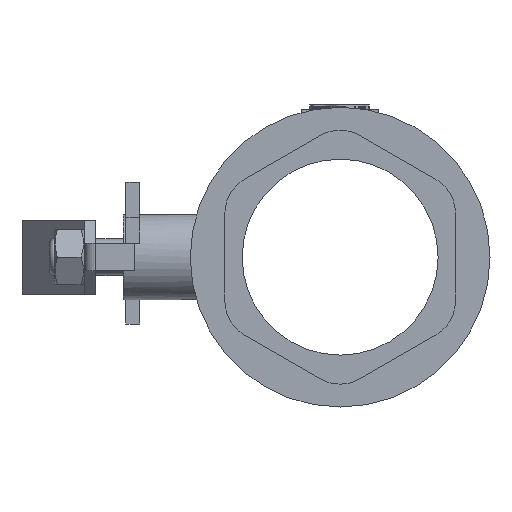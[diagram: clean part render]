
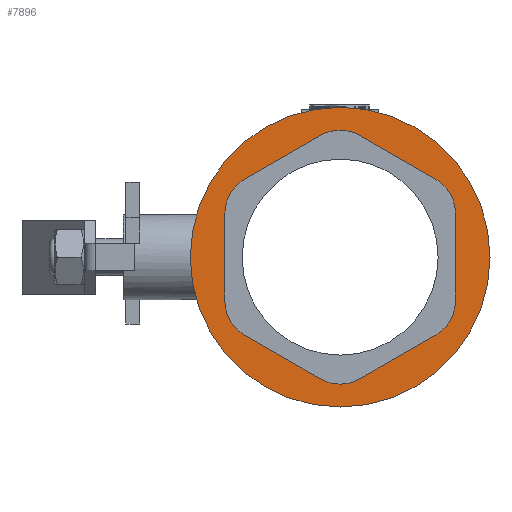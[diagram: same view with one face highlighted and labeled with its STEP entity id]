
A CAD part, left-side view. The second image highlights one B-rep face of the part: STEP entity #7896.
In plain terms, the highlighted planar face has unit normal (-1, 0, 0).
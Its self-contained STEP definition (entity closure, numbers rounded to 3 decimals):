
#7896=ADVANCED_FACE('',(#14599,#14601),#14603,.T.);
#14599=FACE_BOUND('',#14600,.T.);
#14600=EDGE_LOOP('',(#20150,#20151));
#14601=FACE_BOUND('',#14602,.T.);
#14602=EDGE_LOOP('',(#20152,#20153,#20154,#20155,#20156,#20157,#20158,#20159,#20160,
#20161,#20162,#20163));
#14603=PLANE('',#14604);
#14604=AXIS2_PLACEMENT_3D('',#14605,#14606,#14607);
#14605=CARTESIAN_POINT('',(10720.205,3271.117,0.));
#14606=DIRECTION('',(-1.,0.,0.));
#14607=DIRECTION('',(0.,0.,1.));
#20150=ORIENTED_EDGE('',*,*,#23042,.F.);
#20151=ORIENTED_EDGE('',*,*,#23043,.F.);
#20152=ORIENTED_EDGE('',*,*,#23044,.F.);
#20153=ORIENTED_EDGE('',*,*,#23045,.F.);
#20154=ORIENTED_EDGE('',*,*,#23046,.F.);
#20155=ORIENTED_EDGE('',*,*,#23047,.F.);
#20156=ORIENTED_EDGE('',*,*,#23048,.F.);
#20157=ORIENTED_EDGE('',*,*,#23049,.F.);
#20158=ORIENTED_EDGE('',*,*,#23050,.F.);
#20159=ORIENTED_EDGE('',*,*,#23051,.F.);
#20160=ORIENTED_EDGE('',*,*,#23052,.F.);
#20161=ORIENTED_EDGE('',*,*,#23053,.F.);
#20162=ORIENTED_EDGE('',*,*,#23054,.F.);
#20163=ORIENTED_EDGE('',*,*,#23055,.F.);
#23042=EDGE_CURVE('',#27417,#27418,#27419,.T.);
#23043=EDGE_CURVE('',#27418,#27417,#27420,.T.);
#23044=EDGE_CURVE('',#27421,#27422,#27423,.T.);
#23045=EDGE_CURVE('',#27424,#27421,#27425,.T.);
#23046=EDGE_CURVE('',#27426,#27424,#27427,.T.);
#23047=EDGE_CURVE('',#27428,#27426,#27429,.T.);
#23048=EDGE_CURVE('',#27430,#27428,#27431,.T.);
#23049=EDGE_CURVE('',#27432,#27430,#27433,.T.);
#23050=EDGE_CURVE('',#27434,#27432,#27435,.T.);
#23051=EDGE_CURVE('',#27436,#27434,#27437,.T.);
#23052=EDGE_CURVE('',#27438,#27436,#27439,.T.);
#23053=EDGE_CURVE('',#27440,#27438,#27441,.T.);
#23054=EDGE_CURVE('',#27442,#27440,#27443,.T.);
#23055=EDGE_CURVE('',#27422,#27442,#27444,.T.);
#27417=VERTEX_POINT('',#37223);
#27418=VERTEX_POINT('',#37224);
#27419=CIRCLE('',#37225,65.);
#27420=CIRCLE('',#37229,65.);
#27421=VERTEX_POINT('',#37233);
#27422=VERTEX_POINT('',#37234);
#27423=CIRCLE('',#37235,17.);
#27424=VERTEX_POINT('',#37239);
#27425=LINE('',#37240,#37241);
#27426=VERTEX_POINT('',#37243);
#27427=CIRCLE('',#37244,17.);
#27428=VERTEX_POINT('',#37248);
#27429=LINE('',#37249,#37250);
#27430=VERTEX_POINT('',#37252);
#27431=CIRCLE('',#37253,17.);
#27432=VERTEX_POINT('',#37257);
#27433=LINE('',#37258,#37259);
#27434=VERTEX_POINT('',#37261);
#27435=CIRCLE('',#37262,17.);
#27436=VERTEX_POINT('',#37266);
#27437=LINE('',#37267,#37268);
#27438=VERTEX_POINT('',#37270);
#27439=CIRCLE('',#37271,17.);
#27440=VERTEX_POINT('',#37275);
#27441=LINE('',#37276,#37277);
#27442=VERTEX_POINT('',#37279);
#27443=CIRCLE('',#37280,17.);
#27444=LINE('',#37284,#37285);
#37223=CARTESIAN_POINT('',(10720.205,3141.117,0.));
#37224=CARTESIAN_POINT('',(10720.205,3271.117,0.));
#37225=AXIS2_PLACEMENT_3D('',#37226,#37227,#37228);
#37226=CARTESIAN_POINT('',(10720.205,3206.117,0.));
#37227=DIRECTION('',(1.,0.,0.));
#37228=DIRECTION('',(0.,-1.,0.));
#37229=AXIS2_PLACEMENT_3D('',#37230,#37231,#37232);
#37230=CARTESIAN_POINT('',(10720.205,3206.117,0.));
#37231=DIRECTION('',(1.,0.,0.));
#37232=DIRECTION('',(0.,1.,0.));
#37233=CARTESIAN_POINT('',(10720.205,3156.117,19.053));
#37234=CARTESIAN_POINT('',(10720.205,3164.617,33.775));
#37235=AXIS2_PLACEMENT_3D('',#37236,#37237,#37238);
#37236=CARTESIAN_POINT('',(10720.205,3173.117,19.053));
#37237=DIRECTION('',(-1.,0.,0.));
#37238=DIRECTION('',(0.,-1.,0.));
#37239=CARTESIAN_POINT('',(10720.205,3156.117,-19.053));
#37240=CARTESIAN_POINT('',(10720.205,3156.117,-19.053));
#37241=VECTOR('',#37242,1.);
#37242=DIRECTION('',(0.,0.,1.));
#37243=CARTESIAN_POINT('',(10720.205,3164.617,-33.775));
#37244=AXIS2_PLACEMENT_3D('',#37245,#37246,#37247);
#37245=CARTESIAN_POINT('',(10720.205,3173.117,-19.053));
#37246=DIRECTION('',(-1.,0.,0.));
#37247=DIRECTION('',(0.,-0.5,-0.866));
#37248=CARTESIAN_POINT('',(10720.205,3197.617,-52.828));
#37249=CARTESIAN_POINT('',(10720.205,3197.617,-52.828));
#37250=VECTOR('',#37251,1.);
#37251=DIRECTION('',(0.,-0.866,0.5));
#37252=CARTESIAN_POINT('',(10720.205,3214.617,-52.828));
#37253=AXIS2_PLACEMENT_3D('',#37254,#37255,#37256);
#37254=CARTESIAN_POINT('',(10720.205,3206.117,-38.105));
#37255=DIRECTION('',(-1.,0.,0.));
#37256=DIRECTION('',(0.,0.5,-0.866));
#37257=CARTESIAN_POINT('',(10720.205,3247.617,-33.775));
#37258=CARTESIAN_POINT('',(10720.205,3247.617,-33.775));
#37259=VECTOR('',#37260,1.);
#37260=DIRECTION('',(0.,-0.866,-0.5));
#37261=CARTESIAN_POINT('',(10720.205,3256.117,-19.053));
#37262=AXIS2_PLACEMENT_3D('',#37263,#37264,#37265);
#37263=CARTESIAN_POINT('',(10720.205,3239.117,-19.053));
#37264=DIRECTION('',(-1.,0.,0.));
#37265=DIRECTION('',(0.,1.,0.));
#37266=CARTESIAN_POINT('',(10720.205,3256.117,19.053));
#37267=CARTESIAN_POINT('',(10720.205,3256.117,19.053));
#37268=VECTOR('',#37269,1.);
#37269=DIRECTION('',(0.,0.,-1.));
#37270=CARTESIAN_POINT('',(10720.205,3247.617,33.775));
#37271=AXIS2_PLACEMENT_3D('',#37272,#37273,#37274);
#37272=CARTESIAN_POINT('',(10720.205,3239.117,19.053));
#37273=DIRECTION('',(-1.,0.,0.));
#37274=DIRECTION('',(0.,0.5,0.866));
#37275=CARTESIAN_POINT('',(10720.205,3214.617,52.828));
#37276=CARTESIAN_POINT('',(10720.205,3214.617,52.828));
#37277=VECTOR('',#37278,1.);
#37278=DIRECTION('',(0.,0.866,-0.5));
#37279=CARTESIAN_POINT('',(10720.205,3197.617,52.828));
#37280=AXIS2_PLACEMENT_3D('',#37281,#37282,#37283);
#37281=CARTESIAN_POINT('',(10720.205,3206.117,38.105));
#37282=DIRECTION('',(-1.,0.,0.));
#37283=DIRECTION('',(0.,-0.5,0.866));
#37284=CARTESIAN_POINT('',(10720.205,3164.617,33.775));
#37285=VECTOR('',#37286,1.);
#37286=DIRECTION('',(0.,0.866,0.5));
